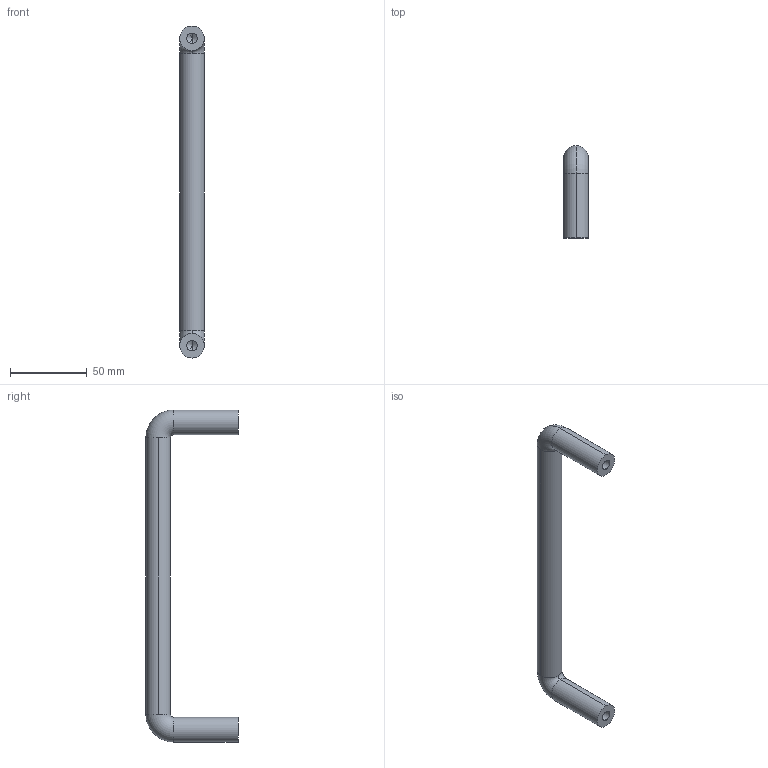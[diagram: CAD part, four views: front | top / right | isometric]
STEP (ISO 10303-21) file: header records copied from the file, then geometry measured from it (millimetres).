
FILE_DESCRIPTION (( 'STEP AP203' ), '1' );
FILE_NAME ('E03-162060.STEP', '2023-04-20T07:45:19', ( '' ), ( '' ), 'SwSTEP 2.0', 'SolidWorks 2021', '' );
FILE_SCHEMA (( 'CONFIG_CONTROL_DESIGN' ));
Length unit declared in the file: millimetre
Products named in the file (1): E03-162060
Bounding box: 16 x 60 x 216 mm (x, y, z)
Volume: 58257.9 mm3; surface area: 15904.3 mm2
Topology: 1 solids, 1 shells, 20 faces, 46 edges, 26 vertices
Faces by surface type: cylinder 10, torus 4, cone 4, plane 2
Entity records: 623 total; most frequent: DIRECTION 112, CARTESIAN_POINT 89, ORIENTED_EDGE 84, AXIS2_PLACEMENT_3D 49, EDGE_CURVE 42, CIRCLE 28, VERTEX_POINT 26, EDGE_LOOP 22
